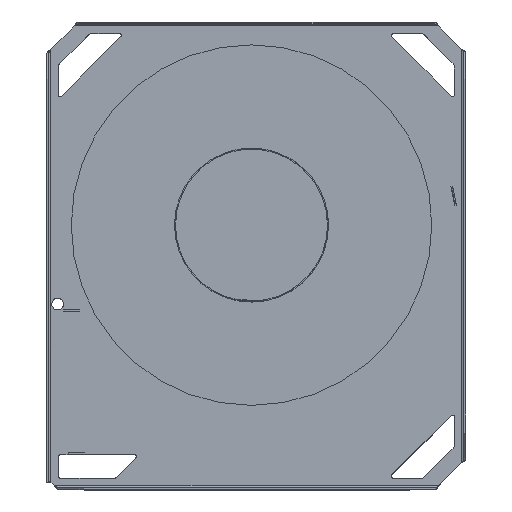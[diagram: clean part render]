
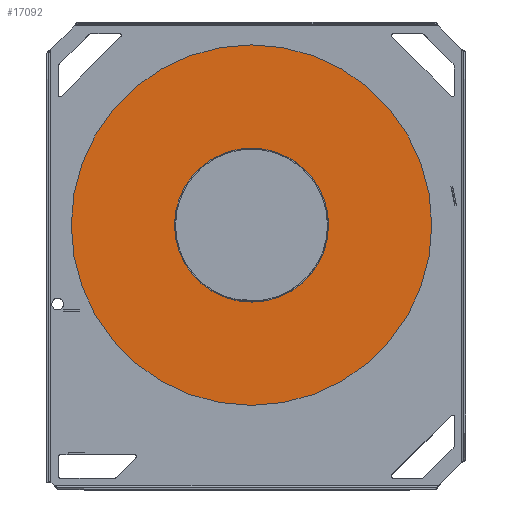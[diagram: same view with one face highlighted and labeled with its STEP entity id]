
A CAD part, top view. The second image highlights one B-rep face of the part: STEP entity #17092.
In plain terms, the highlighted planar face has unit normal (0, 0, 1).
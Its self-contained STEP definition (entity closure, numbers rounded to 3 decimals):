
#16948=CARTESIAN_POINT('',(0.,0.,2.));
#16949=DIRECTION('',(0.,0.,1.));
#16950=DIRECTION('',(1.,0.,0.));
#16951=AXIS2_PLACEMENT_3D('',#16948,#16949,#16950);
#16956=CARTESIAN_POINT('',(0.,0.,2.));
#16957=DIRECTION('',(0.,0.,1.));
#16958=DIRECTION('',(-1.,0.,0.));
#16959=AXIS2_PLACEMENT_3D('',#16956,#16957,#16958);
#16964=CARTESIAN_POINT('',(0.,0.,2.));
#16965=DIRECTION('',(0.,0.,-1.));
#16966=DIRECTION('',(1.,0.,0.));
#16967=AXIS2_PLACEMENT_3D('',#16964,#16965,#16966);
#16972=CARTESIAN_POINT('',(0.,0.,2.));
#16973=DIRECTION('',(0.,0.,-1.));
#16974=DIRECTION('',(-1.,0.,0.));
#16975=AXIS2_PLACEMENT_3D('',#16972,#16973,#16974);
#17002=CARTESIAN_POINT('',(185.,0.,2.));
#17003=CARTESIAN_POINT('',(-185.,0.,2.));
#17004=VERTEX_POINT('',#17002);
#17005=VERTEX_POINT('',#17003);
#17006=CARTESIAN_POINT('',(79.,0.,2.));
#17007=CARTESIAN_POINT('',(-79.,0.,2.));
#17008=VERTEX_POINT('',#17006);
#17009=VERTEX_POINT('',#17007);
#17077=CARTESIAN_POINT('',(0.,0.,2.));
#17078=DIRECTION('',(0.,0.,1.));
#17079=DIRECTION('',(1.,0.,0.));
#17080=AXIS2_PLACEMENT_3D('',#17077,#17078,#17079);
#17081=PLANE('',#17080);
#17082=ORIENTED_EDGE('',*,*,#17043,.F.);
#17083=ORIENTED_EDGE('',*,*,#17064,.F.);
#17084=EDGE_LOOP('',(#17082,#17083));
#17085=FACE_OUTER_BOUND('',#17084,.F.);
#17087=ORIENTED_EDGE('',*,*,#17086,.F.);
#17089=ORIENTED_EDGE('',*,*,#17088,.F.);
#17090=EDGE_LOOP('',(#17087,#17089));
#17091=FACE_BOUND('',#17090,.F.);
#16952=CIRCLE('',#16951,185.);
#16960=CIRCLE('',#16959,185.);
#16968=CIRCLE('',#16967,79.);
#16976=CIRCLE('',#16975,79.);
#17043=EDGE_CURVE('',#17004,#17005,#16952,.T.);
#17064=EDGE_CURVE('',#17005,#17004,#16960,.T.);
#17086=EDGE_CURVE('',#17008,#17009,#16968,.T.);
#17088=EDGE_CURVE('',#17009,#17008,#16976,.T.);
#17092=ADVANCED_FACE('',(#17085,#17091),#17081,.T.);
